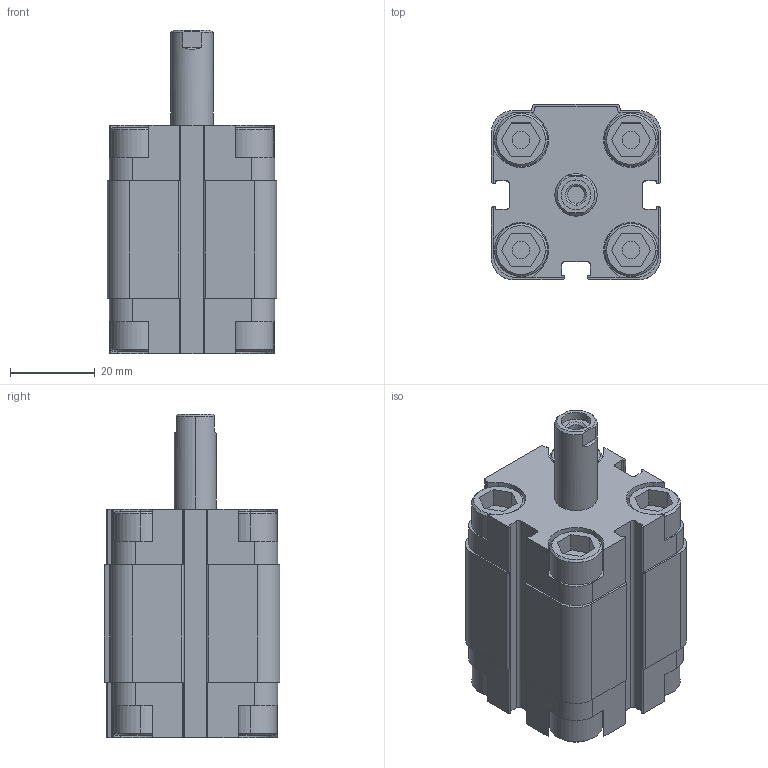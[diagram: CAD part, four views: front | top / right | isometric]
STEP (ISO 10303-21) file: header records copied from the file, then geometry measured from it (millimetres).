
FILE_DESCRIPTION (( 'STEP AP203' ), '1' );
FILE_NAME ('QD0250015A.step', '2012-10-18T17:01:05', ( '' ), ( '' ), 'SwSTEP 2.0', 'SolidWorks 2012', '' );
FILE_SCHEMA (( 'CONFIG_CONTROL_DESIGN' ));
Length unit declared in the file: millimetre
Products named in the file (1): QD0250015A
Bounding box: 40 x 41.5 x 76.4 mm (x, y, z)
Volume: 76617.3 mm3; surface area: 18905.9 mm2
Topology: 1 solids, 1 shells, 316 faces, 834 edges, 550 vertices
Faces by surface type: plane 186, cylinder 106, cone 24
Entity records: 9877 total; most frequent: CARTESIAN_POINT 1731, DIRECTION 1716, ORIENTED_EDGE 1668, EDGE_CURVE 834, AXIS2_PLACEMENT_3D 575, LINE 566, VECTOR 566, VERTEX_POINT 550
